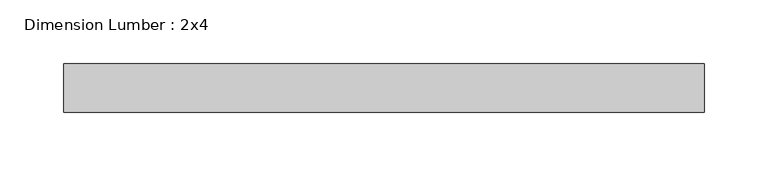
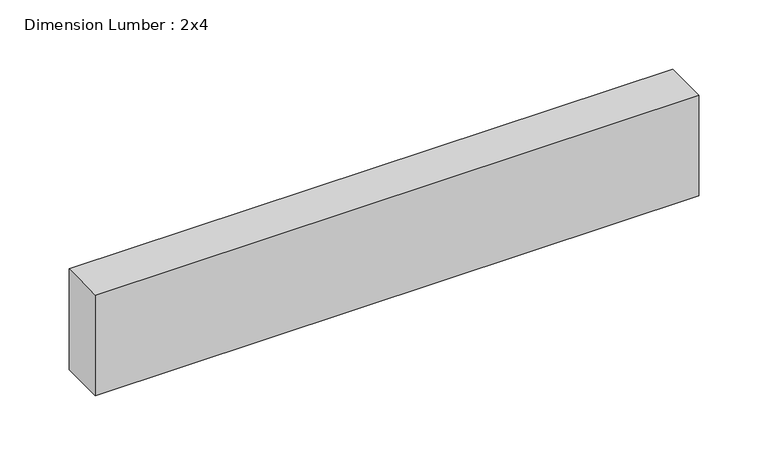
"""IFC4 building model written with IfcOpenShell, lengths in millimetres: beam geometry, Dimension Lumber : 2x4."""

from ifc_helpers import new_model, si_unit, frame, origin, place, context, project, spatial, polyline, outline, extrude, source, transform, mapped, element, save


def dimension_lumber_2x4_777adec8(model_context):
    return source(origin(), model_context, "Body", "SweptSolid", [
        extrude(outline(polyline([(252.006331, 19.05), (252.006331, -19.05), (-252.006331, -19.05), (-252.006331, 19.05), (252.006331, 19.05)])), frame((0.0, 0.0, -44.45), z_axis=(0.0, 0.0, 1.0), x_axis=(1.0, 0.0, 0.0)), (0.0, 0.0, 1.0), 88.9),
    ])


if __name__ == "__main__":
    model = new_model("IFC4")
    model_context = context("Model", 3, world=origin())
    ifc_project = project(units=[si_unit("LENGTHUNIT", "METRE", prefix="MILLI")], contexts=[model_context])
    site = spatial("IfcSite", under=ifc_project)
    building = spatial("IfcBuilding", under=site)
    placement = place(None, origin())
    dimension_lumber_2x4_shape = dimension_lumber_2x4_777adec8(model_context)
    element("IfcBeam", 1, ObjectType="Dimension Lumber : 2x4", at=placement, inside=building, context=model_context, shape_type="MappedRepresentation", body=[
        mapped(dimension_lumber_2x4_shape, transform((0.0, 0.0, 0.0), x_axis=(1.0, 0.0, 0.0), y_axis=(0.0, 1.0, 0.0), z_axis=(0.0, 0.0, 1.0))),
    ])
    save(model, "model.ifc")
